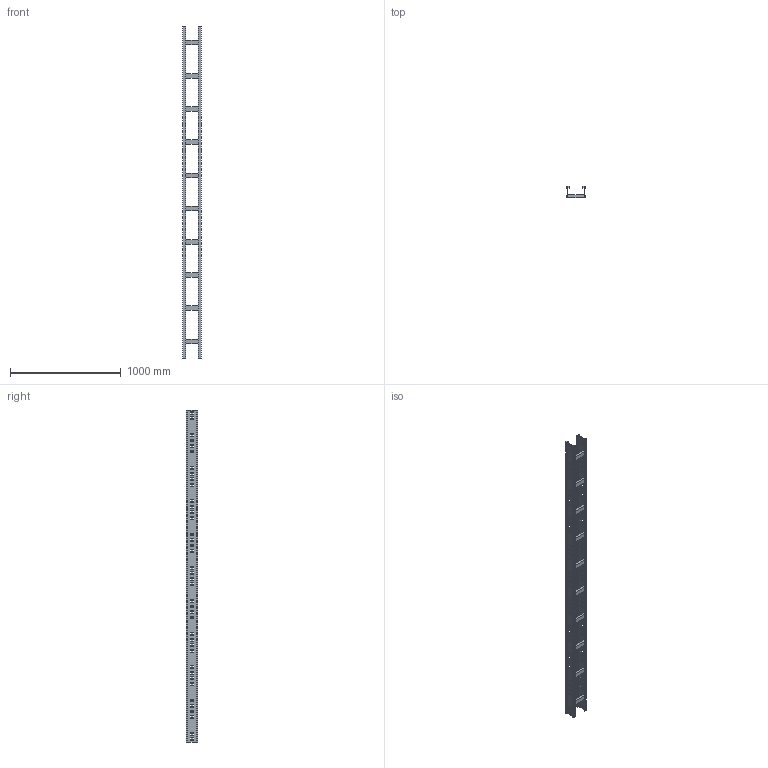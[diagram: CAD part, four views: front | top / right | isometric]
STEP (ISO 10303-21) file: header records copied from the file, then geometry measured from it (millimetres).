
FILE_DESCRIPTION (( 'STEP AP214' ), '1' );
FILE_NAME ('01S3D150.step', '2025-02-21T16:19:30', ( '' ), ( '' ), 'SwSTEP 2.0', 'SolidWorks 2023', '' );
FILE_SCHEMA (( 'AUTOMOTIVE_DESIGN' ));
Length unit declared in the file: millimetre
Products named in the file (3): TRAVERSINO_150; LONGH.H100; 01S3D150
Assembly tree (12 placements, depth 2):
  01S3D150
    LONGH.H100  x2
    TRAVERSINO_150  x10
Bounding box: 168 x 100 x 3000 mm (x, y, z)
Volume: 4318200 mm3; surface area: 1922511 mm2
Topology: 12 solids, 12 shells, 728 faces, 2112 edges, 1408 vertices
Faces by surface type: plane 728
Entity records: 11620 total; most frequent: CARTESIAN_POINT 2035, ORIENTED_EDGE 2016, DIRECTION 1718, VECTOR 1008, EDGE_CURVE 1008, LINE 1008, VERTEX_POINT 672, EDGE_LOOP 500
